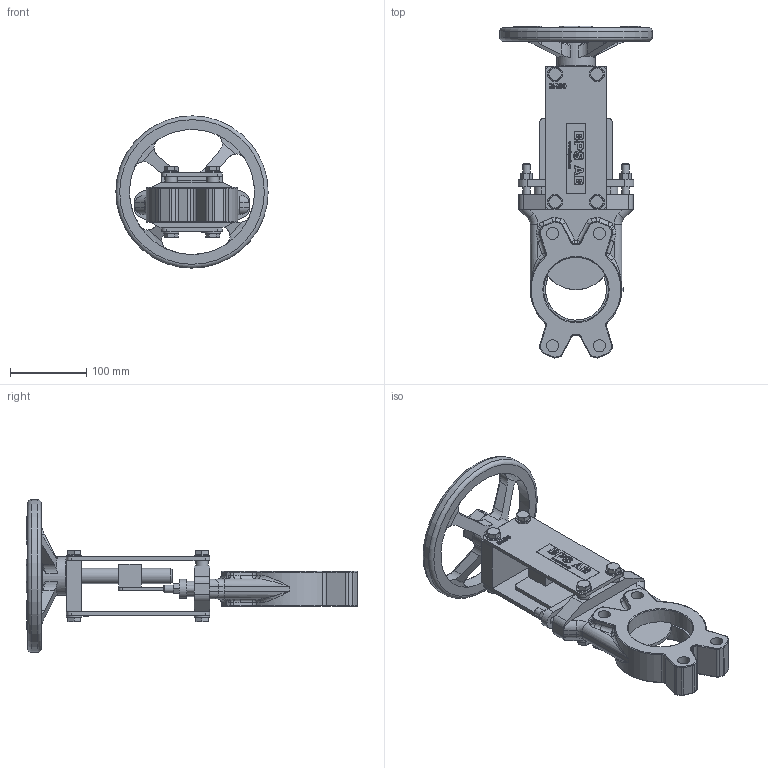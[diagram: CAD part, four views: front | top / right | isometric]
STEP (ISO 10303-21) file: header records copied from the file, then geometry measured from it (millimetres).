
FILE_DESCRIPTION((''),'2;1');
FILE_NAME('Z:\Kunder\BPS\BPS Produkter\BPS 2015\DN 80\Ritningar\BPS 2015080.stp','2012-12-28T10:56:05',('James'),(''),'Autodesk Inventor 2013','Autodesk Inventor 2013','');
FILE_SCHEMA(('AUTOMOTIVE_DESIGN { 1 2 10303 214 0 1 1 1 }'));
Length unit declared in the file: millimetre
Products named in the file (2): BPS 2015080 (SubstituteLevelofDetail1); BPS 2015080
Assembly tree (1 placements, depth 2):
  BPS 2015080 (SubstituteLevelofDetail1)
    BPS 2015080
Bounding box: 200 x 435.77 x 200 mm (x, y, z)
Volume: 1514858.6 mm3; surface area: 278321.6 mm2
Topology: 2 solids, 16 shells, 1203 faces, 2891 edges, 1811 vertices
Faces by surface type: plane 545, bspline 266, cylinder 234, torus 83, cone 55, sphere 20
Full cylindrical faces by diameter (mm): 8 x2, 10 x16, 10.5 x8, 14.63 x8, 16 x10, 20 x11, 50 x1, 80 x1, 85 x1, 164 x1, 200 x1
Entity records: 43165 total; most frequent: CARTESIAN_POINT 15782, ORIENTED_EDGE 5588, DIRECTION 4819, EDGE_CURVE 2794, VERTEX_POINT 1796, AXIS2_PLACEMENT_3D 1671, VECTOR 1477, LINE 1477
